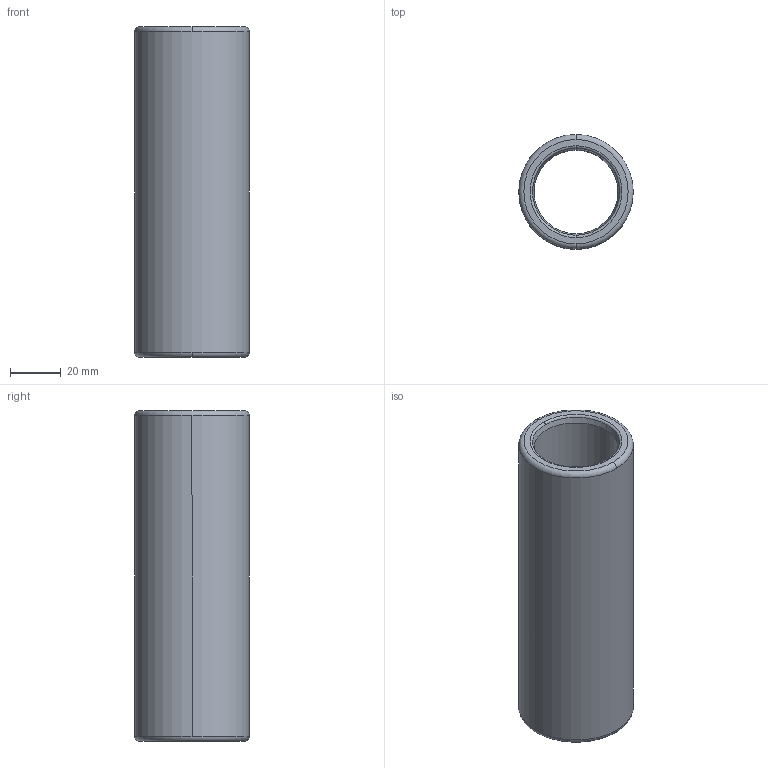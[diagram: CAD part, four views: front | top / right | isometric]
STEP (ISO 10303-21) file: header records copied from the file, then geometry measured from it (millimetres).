
FILE_DESCRIPTION((''),'2;1');
FILE_NAME('B30_025_130.stp','2009-01-12T10:00:20',(''),(''),'Mechanical Desktop 2009','Mechanical Desktop 2009',', , ');
FILE_SCHEMA(('CONFIG_CONTROL_DESIGN'));
Length unit declared in the file: millimetre
Products named in the file (2): Product; blmdl1
Assembly tree (1 placements, depth 2):
  Product
    blmdl1
Bounding box: 44.99 x 44.99 x 130 mm (x, y, z)
Volume: 95173 mm3; surface area: 32879.9 mm2
Topology: 1 solids, 1 shells, 18 faces, 48 edges, 32 vertices
Faces by surface type: torus 8, cylinder 4, cone 4, plane 2
Entity records: 705 total; most frequent: DIRECTION 128, CARTESIAN_POINT 100, ORIENTED_EDGE 96, AXIS2_PLACEMENT_3D 60, EDGE_CURVE 48, CIRCLE 40, VERTEX_POINT 32, EDGE_LOOP 20
